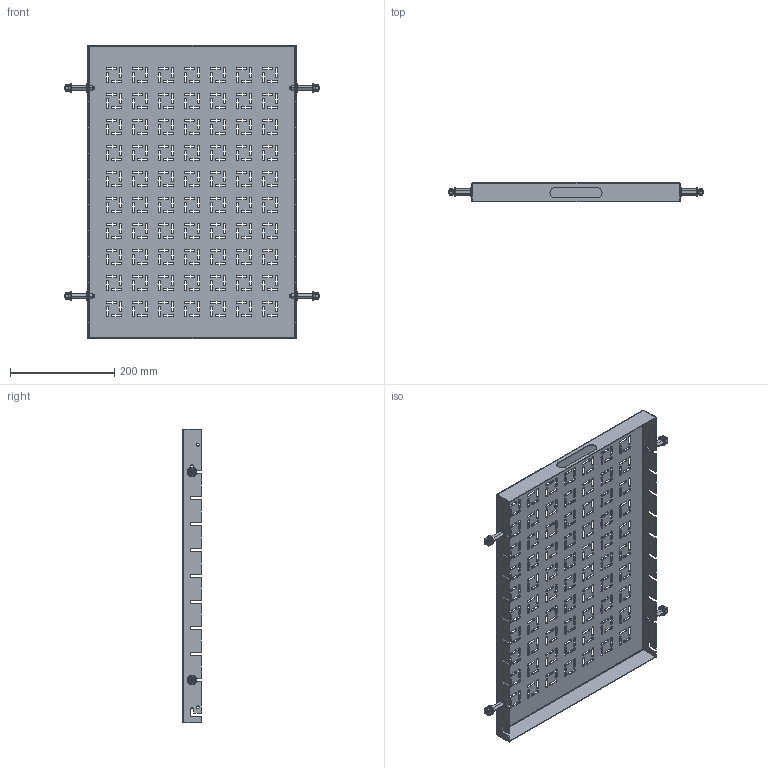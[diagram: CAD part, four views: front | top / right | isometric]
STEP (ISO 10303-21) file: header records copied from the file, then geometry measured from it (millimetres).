
FILE_DESCRIPTION (( 'STEP AP203' ), '1' );
FILE_NAME ('EURI000565.STEP', '2020-07-20T08:43:22', ( '' ), ( '' ), 'SwSTEP 2.0', 'SolidWorks 2019', '' );
FILE_SCHEMA (( 'CONFIG_CONTROL_DESIGN' ));
Length unit declared in the file: millimetre
Products named in the file (6): Rosetta_6.4x18x2; EURI000565; Piegatura_ripiano_ABACUS_565 (0700); dado_gab_M6_9.6; dado_M6_Dado_M6; distanziale_esagonale_M-M_ABACUS_default
Assembly tree (25 placements, depth 2):
  EURI000565
    Piegatura_ripiano_ABACUS_565 (0700)
    Rosetta_6.4x18x2  x12
    distanziale_esagonale_M-M_ABACUS_default  x4
    dado_gab_M6_9.6  x4
    dado_M6_Dado_M6  x4
Bounding box: 492 x 36 x 565 mm (x, y, z)
Volume: 373029.5 mm3; surface area: 560953.6 mm2
Topology: 25 solids, 25 shells, 2262 faces, 6296 edges, 4100 vertices
Faces by surface type: plane 1004, cylinder 950, cone 156, bspline 120, torus 32
Entity records: 57501 total; most frequent: CARTESIAN_POINT 11322, ORIENTED_EDGE 9388, DIRECTION 9377, EDGE_CURVE 4694, AXIS2_PLACEMENT_3D 3228, VERTEX_POINT 3097, VECTOR 2921, LINE 2921
